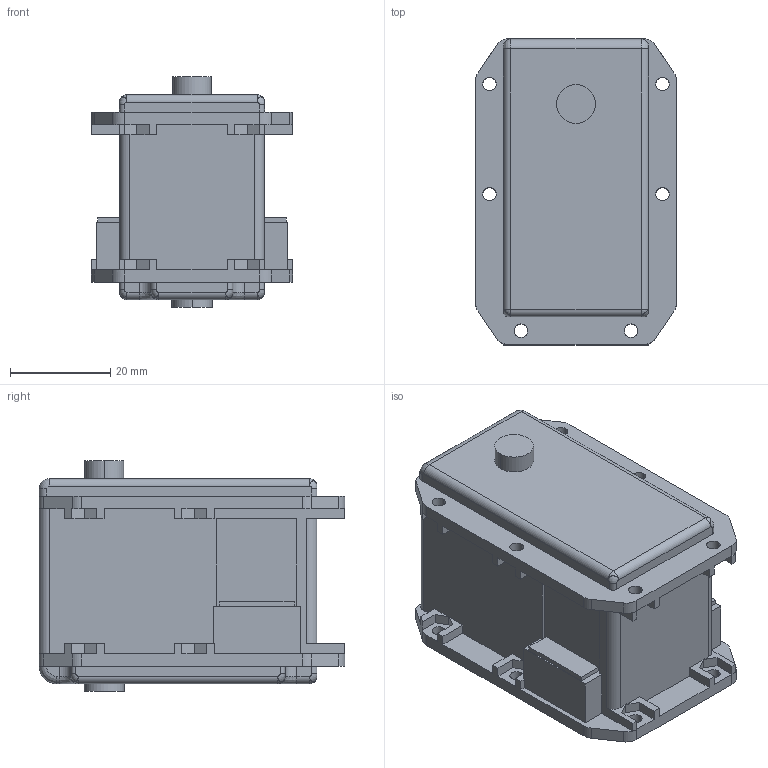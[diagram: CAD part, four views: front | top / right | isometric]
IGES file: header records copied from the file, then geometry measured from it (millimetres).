
Start section:  PTC IGES file: RX-64.igs
Global section: file name: RX-64.igs; native system: Pro/ENGINEER by Parametric Technology Corporation; preprocessor: 2009060; author: Andy; organization: Unknown; date: 20111108.113027; units: millimetre
Bounding box: 40.2 x 61.1 x 46.1 mm (x, y, z)
Surface area: 14078 mm2 (no closed solid volume)
Topology: 0 solids, 0 shells, 313 faces, 1672 edges, 1672 vertices
Faces by surface type: bspline 213, revolution 100
